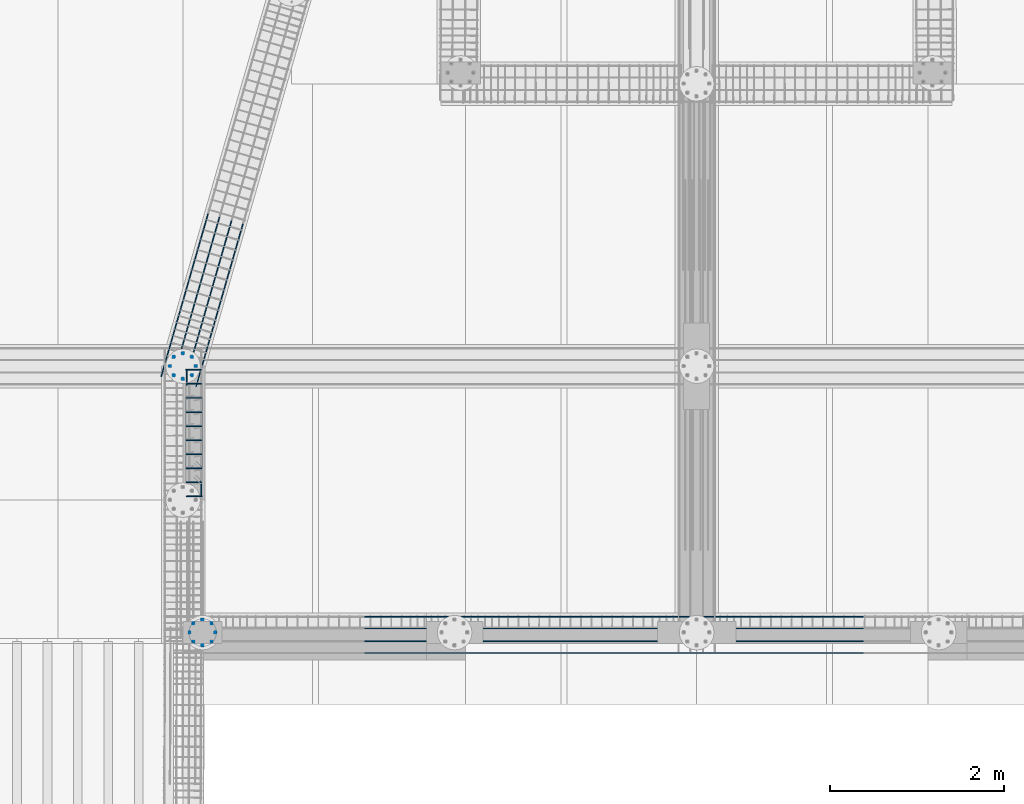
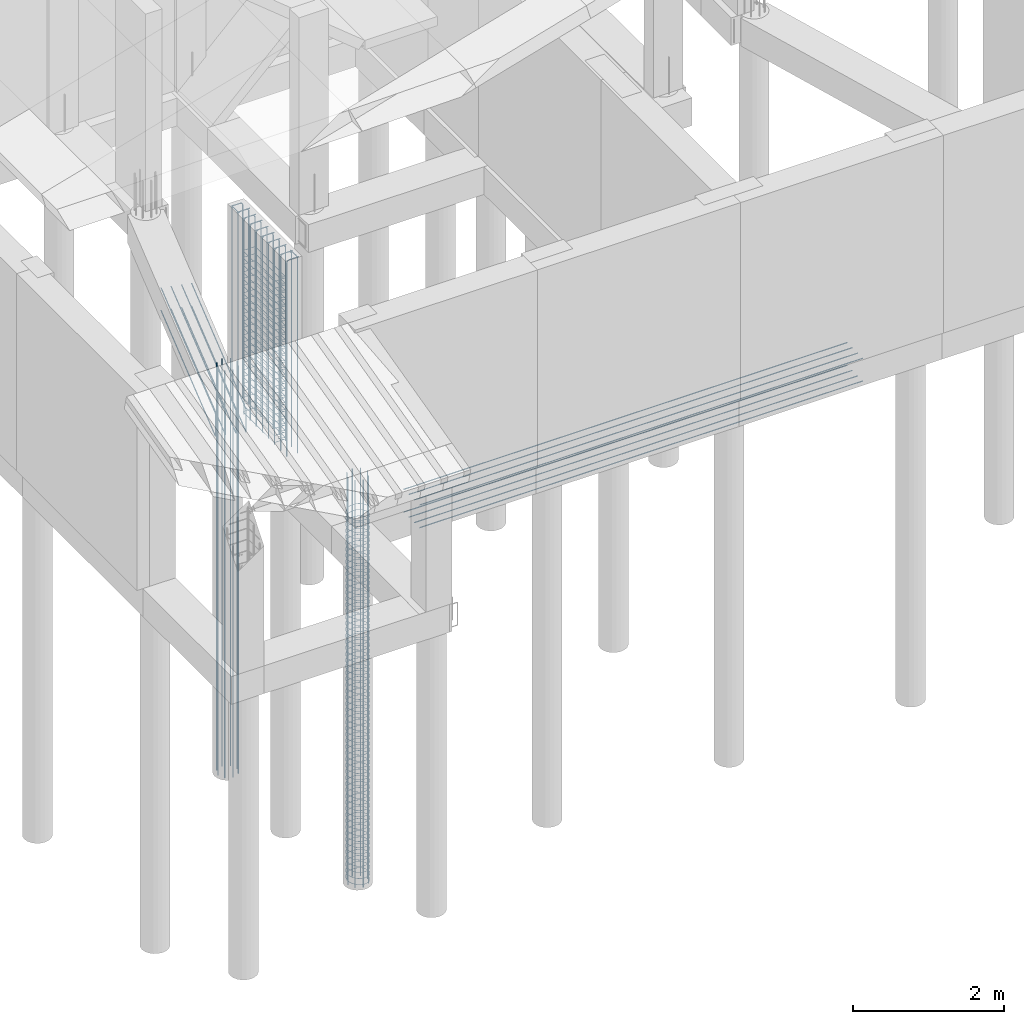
# One storey, part 3 of 13: 8 reinforcing bars.
"""IFC4 building model written with IfcOpenShell, lengths in metres."""

import ifcopenshell
import ifcopenshell.guid

model = None  # the IFC model being written
_history = None  # IfcOwnerHistory: only IFC2X3 demands one
_inside = {}  # id of a spatial element -> (the spatial element, [elements in it])
_under = {}  # id of a project, library or spatial element -> (it, [spatial elements below it])
_declared = {}  # id of a project -> (the project, [libraries it declares])
_typed = {}  # id of a type object -> (the type object, [elements of that type])
_made_of = {}  # id of a material, layer set ... -> (it, [elements and type objects made of it])


def new_model(schema):
    """Start an empty IFC model of exactly this schema.

    Asked for "IFC4X3", IfcOpenShell would pick the latest addendum, in which some entities
    have other attributes; the version numbers below select the first issue.
    IFC2X3 requires an IfcOwnerHistory on every rooted entity: one is made here for all.
    """
    global model, _history
    if schema == "IFC4X3":
        model = ifcopenshell.file(schema_version=(4, 3, 0, 0))
    else:
        model = ifcopenshell.file(schema=schema)
    _inside.clear()
    _under.clear()
    _declared.clear()
    _typed.clear()
    _made_of.clear()
    _history = None
    if model.schema == "IFC2X3":
        org = make("IfcOrganization", Name="unknown")
        user = make(
            "IfcPersonAndOrganization",
            ThePerson=make("IfcPerson", FamilyName="unknown"),
            TheOrganization=org,
        )
        app = make(
            "IfcApplication",
            ApplicationDeveloper=org,
            Version="unknown",
            ApplicationFullName="unknown",
            ApplicationIdentifier="unknown",
        )
        _history = make(
            "IfcOwnerHistory",
            OwningUser=user,
            OwningApplication=app,
            ChangeAction="ADDED",
            CreationDate=0,
        )
    return model


def make(cls, **values):
    """One entity of the class cls with the attributes given. An attribute that is None is left unset."""
    return model.create_entity(
        cls, **{name: value for name, value in values.items() if value is not None}
    )


def entity(cls, *values):
    """Any entity or typed value of the class cls, its attributes in the order of the schema. None: left unset."""
    e = model.create_entity(cls)
    for i, value in enumerate(values):
        if value is not None:
            e[i] = value
    return e


def rooted(cls, **values):
    """An entity with a GlobalId (a new one), such as an element, a storey or a relation."""
    return make(cls, GlobalId=ifcopenshell.guid.new(), OwnerHistory=_history, **values)


def si_unit(unit_type, name, prefix=None):
    """IfcSIUnit, for example si_unit("LENGTHUNIT", "METRE", prefix="MILLI")."""
    return make("IfcSIUnit", UnitType=unit_type, Prefix=prefix, Name=name)


def assignment(units):
    """IfcUnitAssignment: the units of a project."""
    return None if units is None else make("IfcUnitAssignment", Units=units)


def point(xyz):
    """IfcCartesianPoint."""
    return None if xyz is None else make("IfcCartesianPoint", Coordinates=xyz)


def direction(xyz):
    """IfcDirection."""
    return None if xyz is None else make("IfcDirection", DirectionRatios=xyz)


def frame(location, z_axis=None, x_axis=None):
    """IfcAxis2Placement3D, a coordinate frame: its origin and axes. An axis left out is left unset."""
    return make(
        "IfcAxis2Placement3D",
        Location=point(location),
        Axis=direction(z_axis),
        RefDirection=direction(x_axis),
    )


def origin_with_axes():
    """The frame at (0, 0, 0) with the z axis (0, 0, 1) and the x axis (1, 0, 0) written out."""
    return frame((0.0, 0.0, 0.0), z_axis=(0.0, 0.0, 1.0), x_axis=(1.0, 0.0, 0.0))


def place(relative_to, where):
    """IfcLocalPlacement: puts the frame where relative to a parent placement (None: the world)."""
    return make(
        "IfcLocalPlacement", PlacementRelTo=relative_to, RelativePlacement=where
    )


def context(
    kind, dimensions, precision=None, world=None, true_north=None, identifier=None
):
    """IfcGeometricRepresentationContext, for example the 3D "Model" context."""
    return make(
        "IfcGeometricRepresentationContext",
        ContextIdentifier=identifier,
        ContextType=kind,
        CoordinateSpaceDimension=dimensions,
        Precision=precision,
        WorldCoordinateSystem=world,
        TrueNorth=true_north,
    )


def project(units=None, contexts=None):
    """IfcProject with its units and contexts."""
    return rooted(
        "IfcProject",
        Name="project",
        RepresentationContexts=contexts,
        UnitsInContext=assignment(units),
    )


def spatial(cls, under=None, at=None, **own):
    """A site, building, storey or space (cls), placed at a placement, below another one or the project."""
    s = rooted(cls, ObjectPlacement=at, **own)
    if under is not None:
        _under.setdefault(under.id(), (under, []))[1].append(s)
    return s


def shape(context_of_items, identifier, shape_type, items):
    """IfcShapeRepresentation: the items that make up one representation, for example the "Body"."""
    return make(
        "IfcShapeRepresentation",
        ContextOfItems=context_of_items,
        RepresentationIdentifier=identifier,
        RepresentationType=shape_type,
        Items=items,
    )


def source(mapping_origin, context_of_items, identifier, shape_type, items):
    """IfcRepresentationMap: a shape defined once, which mapped items show again and again."""
    return make(
        "IfcRepresentationMap",
        MappingOrigin=mapping_origin,
        MappedRepresentation=shape(context_of_items, identifier, shape_type, items),
    )


def transform(
    local_origin,
    x_axis=None,
    y_axis=None,
    z_axis=None,
    scale=None,
    scale2=None,
    scale3=None,
    uniform=True,
):
    """IfcCartesianTransformationOperator3D, or its non-uniform kind. x_axis, y_axis, z_axis: its Axis1, 2, 3."""
    if uniform:
        return make(
            "IfcCartesianTransformationOperator3D",
            Axis1=direction(x_axis),
            Axis2=direction(y_axis),
            LocalOrigin=point(local_origin),
            Scale=scale,
            Axis3=direction(z_axis),
        )
    return make(
        "IfcCartesianTransformationOperator3DnonUniform",
        Axis1=direction(x_axis),
        Axis2=direction(y_axis),
        LocalOrigin=point(local_origin),
        Scale=scale,
        Axis3=direction(z_axis),
        Scale2=scale2,
        Scale3=scale3,
    )


def mapped(mapping_source, mapping_target):
    """IfcMappedItem: shows the shape of a source again, moved by a transform."""
    return make(
        "IfcMappedItem", MappingSource=mapping_source, MappingTarget=mapping_target
    )


def made_of(thing, what):
    """Note that an element or type object is made of a material, layer set ...; save() writes the relation."""
    if what is not None:
        _made_of.setdefault(what.id(), (what, []))[1].append(thing)
    return thing


def element(
    cls,
    number,
    at=None,
    inside=None,
    cuts=None,
    type_object=None,
    material=None,
    context=None,
    identifier="Body",
    shape_type=None,
    held_by="IfcProductDefinitionShape",
    body=None,
    shapes=None,
    **own,
):
    """One element of the class cls, such as IfcWall. Its Tag is "e" and its number.

    at: its placement. inside: the storey or other place that contains it. cuts: it is an
    opening in that element (IfcRelVoidsElement). A single representation is given by context,
    identifier, shape_type and body (its items); several are given by shapes. held_by: the class
    of the entity that holds the representations. save() writes the other relations.
    """
    e = rooted(cls, Tag="e%d" % number, ObjectPlacement=at, **own)
    if body is not None:
        shapes = [shape(context, identifier, shape_type, body)]
    if shapes is not None:
        e.Representation = make(held_by, Representations=shapes)
    if inside is not None:
        _inside.setdefault(inside.id(), (inside, []))[1].append(e)
    if cuts is not None:
        rooted(
            "IfcRelVoidsElement", RelatingBuildingElement=cuts, RelatedOpeningElement=e
        )
    if type_object is not None:
        _typed.setdefault(type_object.id(), (type_object, []))[1].append(e)
    return made_of(e, material)


def aggregate(whole, parts):
    """IfcRelAggregates: a whole, such as a stair, and the parts it consists of."""
    return rooted("IfcRelAggregates", RelatingObject=whole, RelatedObjects=parts)


def save(model, path):
    """Write the relations noted so far, then the file.

    IfcRelAggregates (storeys below a building ...), IfcRelContainedInSpatialStructure (elements
    in a storey), IfcRelDefinesByType, IfcRelAssociatesMaterial and IfcRelDeclares: one each for
    every whole, place, type object, material and project.
    """
    for whole, parts in _under.values():
        aggregate(whole, parts)
    for where, things in _inside.values():
        rooted(
            "IfcRelContainedInSpatialStructure",
            RelatedElements=things,
            RelatingStructure=where,
        )
    for kind, things in _typed.values():
        rooted("IfcRelDefinesByType", RelatedObjects=things, RelatingType=kind)
    for what, things in _made_of.values():
        rooted("IfcRelAssociatesMaterial", RelatedObjects=things, RelatingMaterial=what)
    for by, libraries in _declared.values():
        rooted("IfcRelDeclares", RelatingContext=by, RelatedDefinitions=libraries)
    model.write(path)


model = new_model("IFC4")

# Units and contexts
model_context = context("Model", 3, precision=1e-05, world=origin_with_axes())
ifc_project = project(units=[si_unit("LENGTHUNIT", "METRE"), si_unit("AREAUNIT", "SQUARE_METRE"), si_unit("VOLUMEUNIT", "CUBIC_METRE"), si_unit("MASSUNIT", "GRAM", prefix="KILO"), si_unit("TIMEUNIT", "SECOND"), si_unit("PLANEANGLEUNIT", "RADIAN"), si_unit("SOLIDANGLEUNIT", "STERADIAN"), si_unit("THERMODYNAMICTEMPERATUREUNIT", "DEGREE_CELSIUS")], contexts=[model_context])

# Site, building, storey
placement_1 = place(None, origin_with_axes())
site = spatial("IfcSite", under=ifc_project, at=placement_1, Name="Italia", CompositionType="ELEMENT")
building = spatial("IfcBuilding", under=site, at=placement_1, Name="Villa", CompositionType="ELEMENT")
storey = spatial("IfcBuildingStorey", under=building, at=placement_1, Name="Storey 0", CompositionType="ELEMENT", Elevation=0.0)

# Reinforcing bars
shared_shape_1 = source(origin_with_axes(), model_context, "Body", "AdvancedSweptSolid", [
    entity("IfcSweptDiskSolid", entity("IfcIndexedPolyCurve", entity("IfcCartesianPointList3D", [[3.222, 4.042, 0.0], [3.222, 4.042, 3.135], [3.22504, 4.042, 3.15031], [3.23372, 4.042, 3.16328], [3.24669, 4.042, 3.17196], [3.262, 4.042, 3.175], [3.404, 4.042, 3.175]]), [entity("IfcLineIndex", [1, 2]), entity("IfcLineIndex", [2, 3]), entity("IfcLineIndex", [3, 4]), entity("IfcLineIndex", [4, 5]), entity("IfcLineIndex", [5, 6]), entity("IfcLineIndex", [6, 7])], False), 0.008),
])
placement_2 = place(placement_1, origin_with_axes())
reinforcing_bar_1_placement = place(placement_2, origin_with_axes())
element("IfcReinforcingBar", 1, at=reinforcing_bar_1_placement, inside=storey, BarLength=3.33943, CrossSectionArea=0.00020106, NominalDiameter=0.016, context=model_context, shape_type="MappedRepresentation", body=[
    mapped(shared_shape_1, transform((0.0, 0.485333, 0.0), x_axis=(1.0, 0.0, 0.0), y_axis=(0.0, 1.0, 0.0), z_axis=(0.0, 0.0, 1.0), scale=1.0)),
    mapped(shared_shape_1, transform((0.0, 0.323555, 0.0), x_axis=(1.0, 0.0, 0.0), y_axis=(0.0, 1.0, 0.0), z_axis=(0.0, 0.0, 1.0), scale=1.0)),
    mapped(shared_shape_1, transform((0.0, 0.808889, 0.0), x_axis=(1.0, 0.0, 0.0), y_axis=(0.0, 1.0, 0.0), z_axis=(0.0, 0.0, 1.0), scale=1.0)),
    mapped(shared_shape_1, transform((0.0, 0.647111, 0.0), x_axis=(1.0, 0.0, 0.0), y_axis=(0.0, 1.0, 0.0), z_axis=(0.0, 0.0, 1.0), scale=1.0)),
    mapped(shared_shape_1, transform((0.0, 0.0, 0.0), x_axis=(1.0, 0.0, 0.0), y_axis=(0.0, 1.0, 0.0), z_axis=(0.0, 0.0, 1.0), scale=1.0)),
    mapped(shared_shape_1, transform((0.0, 0.970667, 0.0), x_axis=(1.0, 0.0, 0.0), y_axis=(0.0, 1.0, 0.0), z_axis=(0.0, 0.0, 1.0), scale=1.0)),
    mapped(shared_shape_1, transform((6.61, 9.54, 0.0), x_axis=(-1.0, 0.0, 0.0), y_axis=(0.0, -1.0, 0.0), z_axis=(0.0, 0.0, 1.0), scale=1.0)),
    mapped(shared_shape_1, transform((-0.82, 8.72, 0.0), x_axis=(0.0, -1.0, 0.0), y_axis=(1.0, 0.0, 0.0), z_axis=(0.0, 0.0, 1.0), scale=1.0)),
    mapped(shared_shape_1, transform((0.0, 0.161778, 0.0), x_axis=(1.0, 0.0, 0.0), y_axis=(0.0, 1.0, 0.0), z_axis=(0.0, 0.0, 1.0), scale=1.0)),
    mapped(shared_shape_1, transform((7.43, 0.82, 0.0), x_axis=(0.0, 1.0, 0.0), y_axis=(-1.0, 0.0, 0.0), z_axis=(0.0, 0.0, 1.0), scale=1.0)),
    mapped(shared_shape_1, transform((6.61, 8.73111, 0.0), x_axis=(-1.0, 0.0, 0.0), y_axis=(0.0, -1.0, 0.0), z_axis=(0.0, 0.0, 1.0), scale=1.0)),
    mapped(shared_shape_1, transform((6.61, 8.89289, 0.0), x_axis=(-1.0, 0.0, 0.0), y_axis=(0.0, -1.0, 0.0), z_axis=(0.0, 0.0, 1.0), scale=1.0)),
    mapped(shared_shape_1, transform((6.61, 8.40756, 0.0), x_axis=(-1.0, 0.0, 0.0), y_axis=(0.0, -1.0, 0.0), z_axis=(0.0, 0.0, 1.0), scale=1.0)),
    mapped(shared_shape_1, transform((6.61, 8.56933, 0.0), x_axis=(-1.0, 0.0, 0.0), y_axis=(0.0, -1.0, 0.0), z_axis=(0.0, 0.0, 1.0), scale=1.0)),
    mapped(shared_shape_1, transform((0.0, 1.13244, 0.0), x_axis=(1.0, 0.0, 0.0), y_axis=(0.0, 1.0, 0.0), z_axis=(0.0, 0.0, 1.0), scale=1.0)),
    mapped(shared_shape_1, transform((6.61, 8.24578, 0.0), x_axis=(-1.0, 0.0, 0.0), y_axis=(0.0, -1.0, 0.0), z_axis=(0.0, 0.0, 1.0), scale=1.0)),
    mapped(shared_shape_1, transform((6.61, 9.37822, 0.0), x_axis=(-1.0, 0.0, 0.0), y_axis=(0.0, -1.0, 0.0), z_axis=(0.0, 0.0, 1.0), scale=1.0)),
    mapped(shared_shape_1, transform((0.0, 1.29422, 0.0), x_axis=(1.0, 0.0, 0.0), y_axis=(0.0, 1.0, 0.0), z_axis=(0.0, 0.0, 1.0), scale=1.0)),
    mapped(shared_shape_1, transform((6.61, 9.05467, 0.0), x_axis=(-1.0, 0.0, 0.0), y_axis=(0.0, -1.0, 0.0), z_axis=(0.0, 0.0, 1.0), scale=1.0)),
    mapped(shared_shape_1, transform((6.61, 9.21644, 0.0), x_axis=(-1.0, 0.0, 0.0), y_axis=(0.0, -1.0, 0.0), z_axis=(0.0, 0.0, 1.0), scale=1.0)),
])
shared_shape_2 = source(origin_with_axes(), model_context, "Body", "AdvancedSweptSolid", [
    entity("IfcSweptDiskSolid", entity("IfcIndexedPolyCurve", entity("IfcCartesianPointList3D", [[3.32929, 4.44527, 0.041], [3.39707, 4.37748, 0.0406273], [3.4, 4.37041, 0.0405975], [3.4, 4.36356, 0.0405709], [3.39924, 4.35973, 0.0405557], [3.39707, 4.35648, 0.0405405], [3.39383, 4.35432, 0.0405254], [3.39, 4.35356, 0.0405102], [3.22, 4.35356, 0.0398492], [3.21617, 4.35432, 0.039834], [3.21293, 4.35648, 0.0398189], [3.21076, 4.35973, 0.0398037], [3.21, 4.36356, 0.0397885], [3.21, 5.17644, 0.0366279], [3.21076, 5.18027, 0.0366127], [3.21293, 5.18352, 0.0365975], [3.21617, 5.18568, 0.0365824], [3.22, 5.18644, 0.0365672], [3.39, 5.18644, 0.0359062], [3.39383, 5.18568, 0.035891], [3.39707, 5.18352, 0.0358759], [3.39924, 5.18027, 0.0358607], [3.4, 5.17644, 0.0358455], [3.4, 4.36356, 0.0326849], [3.39924, 4.35973, 0.0326697], [3.39707, 4.35648, 0.0326545], [3.39383, 4.35432, 0.0326394], [3.39, 4.35356, 0.0326242], [3.38314, 4.35356, 0.0325975], [3.37607, 4.35648, 0.0325678], [3.30829, 4.42427, 0.0321951]]), [entity("IfcLineIndex", [1, 2]), entity("IfcLineIndex", [2, 3]), entity("IfcLineIndex", [3, 4]), entity("IfcLineIndex", [4, 5]), entity("IfcLineIndex", [5, 6]), entity("IfcLineIndex", [6, 7]), entity("IfcLineIndex", [7, 8]), entity("IfcLineIndex", [8, 9]), entity("IfcLineIndex", [9, 10]), entity("IfcLineIndex", [10, 11]), entity("IfcLineIndex", [11, 12]), entity("IfcLineIndex", [12, 13]), entity("IfcLineIndex", [13, 14]), entity("IfcLineIndex", [14, 15]), entity("IfcLineIndex", [15, 16]), entity("IfcLineIndex", [16, 17]), entity("IfcLineIndex", [17, 18]), entity("IfcLineIndex", [18, 19]), entity("IfcLineIndex", [19, 20]), entity("IfcLineIndex", [20, 21]), entity("IfcLineIndex", [21, 22]), entity("IfcLineIndex", [22, 23]), entity("IfcLineIndex", [23, 24]), entity("IfcLineIndex", [24, 25]), entity("IfcLineIndex", [25, 26]), entity("IfcLineIndex", [26, 27]), entity("IfcLineIndex", [27, 28]), entity("IfcLineIndex", [28, 29]), entity("IfcLineIndex", [29, 30]), entity("IfcLineIndex", [30, 31])], False), 0.004),
])
reinforcing_bar_2_placement = place(placement_2, origin_with_axes())
element("IfcReinforcingBar", 2, at=reinforcing_bar_2_placement, inside=storey, BarLength=2.26457, CrossSectionArea=5.0265e-05, NominalDiameter=0.008, context=model_context, shape_type="MappedRepresentation", body=[
    mapped(shared_shape_2, transform((0.0, 0.0, 2.49691), x_axis=(1.0, 0.0, -5.10825e-05), y_axis=(0.0, 1.0, -4.85529e-05), z_axis=(5.10825e-05, 4.85529e-05, 1.0), scale=1.0)),
    mapped(shared_shape_2, transform((0.0, 0.0, 2.38343), x_axis=(1.0, 0.0, -5.10825e-05), y_axis=(0.0, 1.0, -4.85529e-05), z_axis=(5.10825e-05, 4.85529e-05, 1.0), scale=1.0)),
    mapped(shared_shape_2, transform((0.0, 0.0, 0.113477), x_axis=(1.0, 0.0, 0.0), y_axis=(0.0, 1.0, 0.0), z_axis=(0.0, 0.0, 1.0), scale=1.0)),
    mapped(shared_shape_2, transform((0.0, 0.0, 0.0), x_axis=(1.0, 0.0, 0.0), y_axis=(0.0, 1.0, 0.0), z_axis=(0.0, 0.0, 1.0), scale=1.0)),
    mapped(shared_shape_2, transform((0.0, 0.0, 0.907861), x_axis=(1.0, 0.0, 0.0), y_axis=(0.0, 1.0, 0.0), z_axis=(0.0, 0.0, 1.0), scale=1.0)),
    mapped(shared_shape_2, transform((0.0, 0.0, 2.61039), x_axis=(1.0, 0.0, -5.10825e-05), y_axis=(0.0, 1.0, -4.85529e-05), z_axis=(5.10825e-05, 4.85529e-05, 1.0), scale=1.0)),
    mapped(shared_shape_2, transform((0.0, 0.0, 0.226928), x_axis=(1.0, 0.0, 0.0), y_axis=(0.0, 1.0, 0.0), z_axis=(0.0, 0.0, 1.0), scale=1.0)),
    mapped(shared_shape_2, transform((0.0, 0.0, 0.453884), x_axis=(1.0, 0.0, 0.0), y_axis=(0.0, 1.0, 0.0), z_axis=(0.0, 0.0, 1.0), scale=1.0)),
    mapped(shared_shape_2, transform((0.0, 0.0, 0.332406), x_axis=(1.0, 0.0, 0.0), y_axis=(0.0, 1.0, 0.0), z_axis=(0.0, 0.0, 1.0), scale=1.0)),
    mapped(shared_shape_2, transform((0.0, 0.0, 0.794263), x_axis=(1.0, 0.0, 1.09784e-05), y_axis=(0.0, 1.0, 1.08701e-05), z_axis=(-1.09784e-05, -1.08701e-05, 1.0), scale=1.0)),
    mapped(shared_shape_2, transform((0.0, 0.0, 0.672785), x_axis=(1.0, 0.0, 1.09784e-05), y_axis=(0.0, 1.0, 1.08701e-05), z_axis=(-1.09784e-05, -1.08701e-05, 1.0), scale=1.0)),
    mapped(shared_shape_2, transform((0.0, 0.0, 0.567426), x_axis=(1.0, 0.0, 0.0), y_axis=(0.0, 1.0, 0.0), z_axis=(0.0, 0.0, 1.0), scale=1.0)),
    mapped(shared_shape_2, transform((0.0, 0.0, 1.24017), x_axis=(1.0, 0.0, 1.24783e-05), y_axis=(0.0, 1.0, 1.14904e-05), z_axis=(-1.24783e-05, -1.14904e-05, 1.0), scale=1.0)),
    mapped(shared_shape_2, transform((0.0, 0.0, 1.5886), x_axis=(1.0, 0.0, 1.24783e-05), y_axis=(0.0, 1.0, 1.14904e-05), z_axis=(-1.24783e-05, -1.14904e-05, 1.0), scale=1.0)),
    mapped(shared_shape_2, transform((0.0, 0.0, 1.92104), x_axis=(1.0, 0.0, 1.24783e-05), y_axis=(0.0, 1.0, 1.14904e-05), z_axis=(-1.24783e-05, -1.14904e-05, 1.0), scale=1.0)),
    mapped(shared_shape_2, transform((0.0, 0.0, 1.12669), x_axis=(1.0, 0.0, 1.24783e-05), y_axis=(0.0, 1.0, 1.14904e-05), z_axis=(-1.24783e-05, -1.14904e-05, 1.0), scale=1.0)),
    mapped(shared_shape_2, transform((0.0, 0.0, 1.02121), x_axis=(1.0, 0.0, 1.24783e-05), y_axis=(0.0, 1.0, 1.14904e-05), z_axis=(-1.24783e-05, -1.14904e-05, 1.0), scale=1.0)),
    mapped(shared_shape_2, transform((0.0, 0.0, 1.46712), x_axis=(1.0, 0.0, 1.24783e-05), y_axis=(0.0, 1.0, 1.14904e-05), z_axis=(-1.24783e-05, -1.14904e-05, 1.0), scale=1.0)),
    mapped(shared_shape_2, transform((0.0, 0.0, 1.36165), x_axis=(1.0, 0.0, 1.24783e-05), y_axis=(0.0, 1.0, 1.14904e-05), z_axis=(-1.24783e-05, -1.14904e-05, 1.0), scale=1.0)),
    mapped(shared_shape_2, transform((0.0, 0.0, 1.81556), x_axis=(1.0, 0.0, 1.24783e-05), y_axis=(0.0, 1.0, 1.14904e-05), z_axis=(-1.24783e-05, -1.14904e-05, 1.0), scale=1.0)),
    mapped(shared_shape_2, transform((0.0, 0.0, 1.70208), x_axis=(1.0, 0.0, 1.24783e-05), y_axis=(0.0, 1.0, 1.14904e-05), z_axis=(-1.24783e-05, -1.14904e-05, 1.0), scale=1.0)),
    mapped(shared_shape_2, transform((0.0, 0.0, 2.15647), x_axis=(1.0, 0.0, -5.10825e-05), y_axis=(0.0, 1.0, -4.85529e-05), z_axis=(5.10825e-05, 4.85529e-05, 1.0), scale=1.0)),
    mapped(shared_shape_2, transform((0.0, 0.0, 2.04299), x_axis=(1.0, 0.0, -5.10825e-05), y_axis=(0.0, 1.0, -4.85529e-05), z_axis=(5.10825e-05, 4.85529e-05, 1.0), scale=1.0)),
    mapped(shared_shape_2, transform((0.0, 0.0, 2.26147), x_axis=(1.0, 0.0, 1.24783e-05), y_axis=(0.0, 1.0, 1.14904e-05), z_axis=(-1.24783e-05, -1.14904e-05, 1.0), scale=1.0)),
])
shared_shape_3 = source(origin_with_axes(), model_context, "Body", "AdvancedSweptSolid", [
    entity("IfcSweptDiskSolid", entity("IfcIndexedPolyCurve", entity("IfcCartesianPointList3D", [[3.50965, 2.37035, -6.0], [3.50965, 2.37035, 0.6]]), [entity("IfcLineIndex", [1, 2])], False), 0.008),
])
reinforcing_bar_3_placement = place(placement_2, origin_with_axes())
element("IfcReinforcingBar", 3, at=reinforcing_bar_3_placement, inside=storey, BarLength=6.6, CrossSectionArea=0.00020106, NominalDiameter=0.016, context=model_context, shape_type="MappedRepresentation", body=[
    mapped(shared_shape_3, transform((-0.252652, 0.104652, 0.0), x_axis=(1.0, 0.0, 0.0), y_axis=(0.0, 1.0, 0.0), z_axis=(0.0, 0.0, 1.0), scale=1.0)),
    mapped(shared_shape_3, transform((-0.209304, 0.209303, 0.0), x_axis=(1.0, 0.0, 0.0), y_axis=(0.0, 1.0, 0.0), z_axis=(0.0, 0.0, 1.0), scale=1.0)),
    mapped(shared_shape_3, transform((-0.104652, -0.0433483, 0.0), x_axis=(1.0, 0.0, 0.0), y_axis=(0.0, 1.0, 0.0), z_axis=(0.0, 0.0, 1.0), scale=1.0)),
    mapped(shared_shape_3, transform((-0.209304, 0.0, 0.0), x_axis=(1.0, 0.0, 0.0), y_axis=(0.0, 1.0, 0.0), z_axis=(0.0, 0.0, 1.0), scale=1.0)),
    mapped(shared_shape_3, transform((0.0433481, 0.104652, 0.0), x_axis=(1.0, 0.0, 0.0), y_axis=(0.0, 1.0, 0.0), z_axis=(0.0, 0.0, 1.0), scale=1.0)),
    mapped(shared_shape_3, transform((0.0, 0.0, 0.0), x_axis=(1.0, 0.0, 0.0), y_axis=(0.0, 1.0, 0.0), z_axis=(0.0, 0.0, 1.0), scale=1.0)),
    mapped(shared_shape_3, transform((-0.104652, 0.252652, 0.0), x_axis=(1.0, 0.0, 0.0), y_axis=(0.0, 1.0, 0.0), z_axis=(0.0, 0.0, 1.0), scale=1.0)),
    mapped(shared_shape_3, transform((0.0, 0.209304, 0.0), x_axis=(1.0, 0.0, 0.0), y_axis=(0.0, 1.0, 0.0), z_axis=(0.0, 0.0, 1.0), scale=1.0)),
])
shared_shape_4 = source(origin_with_axes(), model_context, "Body", "AdvancedSweptSolid", [
    entity("IfcSweptDiskSolid", entity("IfcIndexedPolyCurve", entity("IfcCartesianPointList3D", [[3.565, 2.475, -5.97], [3.55717, 2.42556, -5.965], [3.53444, 2.38095, -5.96], [3.49905, 2.34556, -5.955], [3.45444, 2.32283, -5.95], [3.405, 2.315, -5.945], [3.35556, 2.32283, -5.94], [3.31095, 2.34556, -5.935], [3.27556, 2.38095, -5.93], [3.25283, 2.42556, -5.925], [3.245, 2.475, -5.92], [3.25283, 2.52444, -5.915], [3.27556, 2.56905, -5.91], [3.31095, 2.60444, -5.905], [3.35556, 2.62717, -5.9], [3.405, 2.635, -5.895], [3.45444, 2.62717, -5.89], [3.49905, 2.60444, -5.885], [3.53444, 2.56905, -5.88], [3.55717, 2.52444, -5.875], [3.565, 2.475, -5.87]]), [entity("IfcLineIndex", [1, 2]), entity("IfcLineIndex", [2, 3]), entity("IfcLineIndex", [3, 4]), entity("IfcLineIndex", [4, 5]), entity("IfcLineIndex", [5, 6]), entity("IfcLineIndex", [6, 7]), entity("IfcLineIndex", [7, 8]), entity("IfcLineIndex", [8, 9]), entity("IfcLineIndex", [9, 10]), entity("IfcLineIndex", [10, 11]), entity("IfcLineIndex", [11, 12]), entity("IfcLineIndex", [12, 13]), entity("IfcLineIndex", [13, 14]), entity("IfcLineIndex", [14, 15]), entity("IfcLineIndex", [15, 16]), entity("IfcLineIndex", [16, 17]), entity("IfcLineIndex", [17, 18]), entity("IfcLineIndex", [18, 19]), entity("IfcLineIndex", [19, 20]), entity("IfcLineIndex", [20, 21])], False), 0.004),
])
reinforcing_bar_4_placement = place(placement_2, origin_with_axes())
element("IfcReinforcingBar", 4, at=reinforcing_bar_4_placement, inside=storey, BarLength=1.00616, CrossSectionArea=5.0265e-05, NominalDiameter=0.008, context=model_context, shape_type="MappedRepresentation", body=[
    mapped(shared_shape_4, transform((2.36034e-05, -1.64509e-05, 4.3), x_axis=(1.0, 0.0, 0.0), y_axis=(0.0, 1.0, 0.0), z_axis=(0.0, 0.0, 1.0), scale=1.0)),
    mapped(shared_shape_4, transform((2.36034e-05, -1.64509e-05, 4.2), x_axis=(1.0, 0.0, 0.0), y_axis=(0.0, 1.0, 0.0), z_axis=(0.0, 0.0, 1.0), scale=1.0)),
    mapped(shared_shape_4, transform((2.36034e-05, -1.64509e-05, 4.1), x_axis=(1.0, 0.0, 0.0), y_axis=(0.0, 1.0, 0.0), z_axis=(0.0, 0.0, 1.0), scale=1.0)),
    mapped(shared_shape_4, transform((0.0, 0.0, 3.9), x_axis=(1.0, 0.0, 0.0), y_axis=(0.0, 1.0, 0.0), z_axis=(0.0, 0.0, 1.0), scale=1.0)),
    mapped(shared_shape_4, transform((0.0, 0.0, 3.8), x_axis=(1.0, 0.0, 0.0), y_axis=(0.0, 1.0, 0.0), z_axis=(0.0, 0.0, 1.0), scale=1.0)),
    mapped(shared_shape_4, transform((2.36034e-05, -1.64509e-05, 4.4), x_axis=(1.0, 0.0, 0.0), y_axis=(0.0, 1.0, 0.0), z_axis=(0.0, 0.0, 1.0), scale=1.0)),
    mapped(shared_shape_4, transform((0.0, 0.0, 3.5), x_axis=(1.0, 0.0, 0.0), y_axis=(0.0, 1.0, 0.0), z_axis=(0.0, 0.0, 1.0), scale=1.0)),
    mapped(shared_shape_4, transform((0.0, 0.0, 3.4), x_axis=(1.0, 0.0, 0.0), y_axis=(0.0, 1.0, 0.0), z_axis=(0.0, 0.0, 1.0), scale=1.0)),
    mapped(shared_shape_4, transform((2.36034e-05, -1.64509e-05, 4.0), x_axis=(1.0, 0.0, 0.0), y_axis=(0.0, 1.0, 0.0), z_axis=(0.0, 0.0, 1.0), scale=1.0)),
    mapped(shared_shape_4, transform((0.0, 0.0, 3.1), x_axis=(1.0, 0.0, 0.0), y_axis=(0.0, 1.0, 0.0), z_axis=(0.0, 0.0, 1.0), scale=1.0)),
    mapped(shared_shape_4, transform((0.0, 0.0, 3.7), x_axis=(1.0, 0.0, 0.0), y_axis=(0.0, 1.0, 0.0), z_axis=(0.0, 0.0, 1.0), scale=1.0)),
    mapped(shared_shape_4, transform((0.0, 0.0, 3.6), x_axis=(1.0, 0.0, 0.0), y_axis=(0.0, 1.0, 0.0), z_axis=(0.0, 0.0, 1.0), scale=1.0)),
    mapped(shared_shape_4, transform((2.59876e-05, -1.66893e-05, 5.7), x_axis=(1.0, 0.0, 0.0), y_axis=(0.0, 1.0, 0.0), z_axis=(0.0, 0.0, 1.0), scale=1.0)),
    mapped(shared_shape_4, transform((0.0, 0.0, 3.3), x_axis=(1.0, 0.0, 0.0), y_axis=(0.0, 1.0, 0.0), z_axis=(0.0, 0.0, 1.0), scale=1.0)),
    mapped(shared_shape_4, transform((0.0, 0.0, 3.2), x_axis=(1.0, 0.0, 0.0), y_axis=(0.0, 1.0, 0.0), z_axis=(0.0, 0.0, 1.0), scale=1.0)),
    mapped(shared_shape_4, transform((0.0, 0.0, 3.0), x_axis=(1.0, 0.0, 0.0), y_axis=(0.0, 1.0, 0.0), z_axis=(0.0, 0.0, 1.0), scale=1.0)),
    mapped(shared_shape_4, transform((2.3365e-05, -1.54972e-05, 5.9), x_axis=(1.0, 0.0, 0.0), y_axis=(0.0, 1.0, 0.0), z_axis=(0.0, 0.0, 1.0), scale=1.0)),
    mapped(shared_shape_4, transform((2.47955e-05, -1.66893e-05, 5.8), x_axis=(1.0, 0.0, 0.0), y_axis=(0.0, 1.0, 0.0), z_axis=(0.0, 0.0, 1.0), scale=1.0)),
    mapped(shared_shape_4, transform((2.59876e-05, -1.66893e-05, 5.6), x_axis=(1.0, 0.0, 0.0), y_axis=(0.0, 1.0, 0.0), z_axis=(0.0, 0.0, 1.0), scale=1.0)),
    mapped(shared_shape_4, transform((2.59876e-05, -1.66893e-05, 5.5), x_axis=(1.0, 0.0, 0.0), y_axis=(0.0, 1.0, 0.0), z_axis=(0.0, 0.0, 1.0), scale=1.0)),
    mapped(shared_shape_4, transform((2.36034e-05, -1.64509e-05, 5.4), x_axis=(1.0, 0.0, 0.0), y_axis=(0.0, 1.0, 0.0), z_axis=(0.0, 0.0, 1.0), scale=1.0)),
    mapped(shared_shape_4, transform((2.36034e-05, -1.64509e-05, 5.2), x_axis=(1.0, 0.0, 0.0), y_axis=(0.0, 1.0, 0.0), z_axis=(0.0, 0.0, 1.0), scale=1.0)),
    mapped(shared_shape_4, transform((2.36034e-05, -1.64509e-05, 5.1), x_axis=(1.0, 0.0, 0.0), y_axis=(0.0, 1.0, 0.0), z_axis=(0.0, 0.0, 1.0), scale=1.0)),
    mapped(shared_shape_4, transform((2.36034e-05, -1.64509e-05, 5.0), x_axis=(1.0, 0.0, 0.0), y_axis=(0.0, 1.0, 0.0), z_axis=(0.0, 0.0, 1.0), scale=1.0)),
    mapped(shared_shape_4, transform((2.36034e-05, -1.64509e-05, 4.8), x_axis=(1.0, 0.0, 0.0), y_axis=(0.0, 1.0, 0.0), z_axis=(0.0, 0.0, 1.0), scale=1.0)),
    mapped(shared_shape_4, transform((2.36034e-05, -1.64509e-05, 4.7), x_axis=(1.0, 0.0, 0.0), y_axis=(0.0, 1.0, 0.0), z_axis=(0.0, 0.0, 1.0), scale=1.0)),
    mapped(shared_shape_4, transform((2.36034e-05, -1.64509e-05, 5.3), x_axis=(1.0, 0.0, 0.0), y_axis=(0.0, 1.0, 0.0), z_axis=(0.0, 0.0, 1.0), scale=1.0)),
    mapped(shared_shape_4, transform((0.0, 0.0, 1.4), x_axis=(1.0, 0.0, 0.0), y_axis=(0.0, 1.0, 0.0), z_axis=(0.0, 0.0, 1.0), scale=1.0)),
    mapped(shared_shape_4, transform((0.0, 0.0, 1.3), x_axis=(1.0, 0.0, 0.0), y_axis=(0.0, 1.0, 0.0), z_axis=(0.0, 0.0, 1.0), scale=1.0)),
    mapped(shared_shape_4, transform((2.36034e-05, -1.64509e-05, 4.9), x_axis=(1.0, 0.0, 0.0), y_axis=(0.0, 1.0, 0.0), z_axis=(0.0, 0.0, 1.0), scale=1.0)),
    mapped(shared_shape_4, transform((0.0, 0.0, 0.999999), x_axis=(1.0, 0.0, 0.0), y_axis=(0.0, 1.0, 0.0), z_axis=(0.0, 0.0, 1.0), scale=1.0)),
    mapped(shared_shape_4, transform((2.36034e-05, -1.64509e-05, 4.6), x_axis=(1.0, 0.0, 0.0), y_axis=(0.0, 1.0, 0.0), z_axis=(0.0, 0.0, 1.0), scale=1.0)),
    mapped(shared_shape_4, transform((2.36034e-05, -1.64509e-05, 4.5), x_axis=(1.0, 0.0, 0.0), y_axis=(0.0, 1.0, 0.0), z_axis=(0.0, 0.0, 1.0), scale=1.0)),
    mapped(shared_shape_4, transform((0.0, 0.0, 0.599999), x_axis=(1.0, 0.0, 0.0), y_axis=(0.0, 1.0, 0.0), z_axis=(0.0, 0.0, 1.0), scale=1.0)),
    mapped(shared_shape_4, transform((0.0, 0.0, 1.2), x_axis=(1.0, 0.0, 0.0), y_axis=(0.0, 1.0, 0.0), z_axis=(0.0, 0.0, 1.0), scale=1.0)),
    mapped(shared_shape_4, transform((0.0, 0.0, 1.1), x_axis=(1.0, 0.0, 0.0), y_axis=(0.0, 1.0, 0.0), z_axis=(0.0, 0.0, 1.0), scale=1.0)),
    mapped(shared_shape_4, transform((0.0, 0.0, 0.899999), x_axis=(1.0, 0.0, 0.0), y_axis=(0.0, 1.0, 0.0), z_axis=(0.0, 0.0, 1.0), scale=1.0)),
    mapped(shared_shape_4, transform((0.0, 0.0, 0.799999), x_axis=(1.0, 0.0, 0.0), y_axis=(0.0, 1.0, 0.0), z_axis=(0.0, 0.0, 1.0), scale=1.0)),
    mapped(shared_shape_4, transform((0.0, 0.0, 0.699999), x_axis=(1.0, 0.0, 0.0), y_axis=(0.0, 1.0, 0.0), z_axis=(0.0, 0.0, 1.0), scale=1.0)),
    mapped(shared_shape_4, transform((0.0, 0.0, 0.499999), x_axis=(1.0, 0.0, 0.0), y_axis=(0.0, 1.0, 0.0), z_axis=(0.0, 0.0, 1.0), scale=1.0)),
    mapped(shared_shape_4, transform((0.0, 0.0, 0.399999), x_axis=(1.0, 0.0, 0.0), y_axis=(0.0, 1.0, 0.0), z_axis=(0.0, 0.0, 1.0), scale=1.0)),
    mapped(shared_shape_4, transform((0.0, 0.0, 0.299999), x_axis=(1.0, 0.0, 0.0), y_axis=(0.0, 1.0, 0.0), z_axis=(0.0, 0.0, 1.0), scale=1.0)),
    mapped(shared_shape_4, transform((0.0, 0.0, 0.0999994), x_axis=(1.0, 0.0, 0.0), y_axis=(0.0, 1.0, 0.0), z_axis=(0.0, 0.0, 1.0), scale=1.0)),
    mapped(shared_shape_4, transform((0.0, 0.0, 0.0), x_axis=(1.0, 0.0, 0.0), y_axis=(0.0, 1.0, 0.0), z_axis=(0.0, 0.0, 1.0), scale=1.0)),
    mapped(shared_shape_4, transform((0.0, 0.0, 2.9), x_axis=(1.0, 0.0, 0.0), y_axis=(0.0, 1.0, 0.0), z_axis=(0.0, 0.0, 1.0), scale=1.0)),
    mapped(shared_shape_4, transform((0.0, 0.0, 2.7), x_axis=(1.0, 0.0, 0.0), y_axis=(0.0, 1.0, 0.0), z_axis=(0.0, 0.0, 1.0), scale=1.0)),
    mapped(shared_shape_4, transform((0.0, 0.0, 2.6), x_axis=(1.0, 0.0, 0.0), y_axis=(0.0, 1.0, 0.0), z_axis=(0.0, 0.0, 1.0), scale=1.0)),
    mapped(shared_shape_4, transform((0.0, 0.0, 0.199999), x_axis=(1.0, 0.0, 0.0), y_axis=(0.0, 1.0, 0.0), z_axis=(0.0, 0.0, 1.0), scale=1.0)),
    mapped(shared_shape_4, transform((0.0, 0.0, 2.3), x_axis=(1.0, 0.0, 0.0), y_axis=(0.0, 1.0, 0.0), z_axis=(0.0, 0.0, 1.0), scale=1.0)),
    mapped(shared_shape_4, transform((0.0, 0.0, 2.2), x_axis=(1.0, 0.0, 0.0), y_axis=(0.0, 1.0, 0.0), z_axis=(0.0, 0.0, 1.0), scale=1.0)),
    mapped(shared_shape_4, transform((0.0, 0.0, 2.8), x_axis=(1.0, 0.0, 0.0), y_axis=(0.0, 1.0, 0.0), z_axis=(0.0, 0.0, 1.0), scale=1.0)),
    mapped(shared_shape_4, transform((0.0, 0.0, 1.9), x_axis=(1.0, 0.0, 0.0), y_axis=(0.0, 1.0, 0.0), z_axis=(0.0, 0.0, 1.0), scale=1.0)),
    mapped(shared_shape_4, transform((0.0, 0.0, 2.5), x_axis=(1.0, 0.0, 0.0), y_axis=(0.0, 1.0, 0.0), z_axis=(0.0, 0.0, 1.0), scale=1.0)),
    mapped(shared_shape_4, transform((0.0, 0.0, 2.4), x_axis=(1.0, 0.0, 0.0), y_axis=(0.0, 1.0, 0.0), z_axis=(0.0, 0.0, 1.0), scale=1.0)),
    mapped(shared_shape_4, transform((0.0, 0.0, 1.5), x_axis=(1.0, 0.0, 0.0), y_axis=(0.0, 1.0, 0.0), z_axis=(0.0, 0.0, 1.0), scale=1.0)),
    mapped(shared_shape_4, transform((0.0, 0.0, 2.1), x_axis=(1.0, 0.0, 0.0), y_axis=(0.0, 1.0, 0.0), z_axis=(0.0, 0.0, 1.0), scale=1.0)),
    mapped(shared_shape_4, transform((0.0, 0.0, 2.0), x_axis=(1.0, 0.0, 0.0), y_axis=(0.0, 1.0, 0.0), z_axis=(0.0, 0.0, 1.0), scale=1.0)),
    mapped(shared_shape_4, transform((0.0, 0.0, 1.8), x_axis=(1.0, 0.0, 0.0), y_axis=(0.0, 1.0, 0.0), z_axis=(0.0, 0.0, 1.0), scale=1.0)),
    mapped(shared_shape_4, transform((0.0, 0.0, 1.7), x_axis=(1.0, 0.0, 0.0), y_axis=(0.0, 1.0, 0.0), z_axis=(0.0, 0.0, 1.0), scale=1.0)),
    mapped(shared_shape_4, transform((0.0, 0.0, 1.6), x_axis=(1.0, 0.0, 0.0), y_axis=(0.0, 1.0, 0.0), z_axis=(0.0, 0.0, 1.0), scale=1.0)),
])
shared_shape_5 = source(origin_with_axes(), model_context, "Body", "AdvancedSweptSolid", [
    entity("IfcSweptDiskSolid", entity("IfcIndexedPolyCurve", entity("IfcCartesianPointList3D", [[3.28465, 5.43535, -6.0], [3.28465, 5.43535, 0.6]]), [entity("IfcLineIndex", [1, 2])], False), 0.008),
])
reinforcing_bar_5_placement = place(placement_2, origin_with_axes())
element("IfcReinforcingBar", 5, at=reinforcing_bar_5_placement, inside=storey, BarLength=6.6, CrossSectionArea=0.00020106, NominalDiameter=0.016, context=model_context, shape_type="MappedRepresentation", body=[
    mapped(shared_shape_5, transform((-0.252652, 0.104652, 0.0), x_axis=(1.0, 0.0, 0.0), y_axis=(0.0, 1.0, 0.0), z_axis=(0.0, 0.0, 1.0), scale=1.0)),
    mapped(shared_shape_5, transform((-0.209303, 0.209304, 0.0), x_axis=(1.0, 0.0, 0.0), y_axis=(0.0, 1.0, 0.0), z_axis=(0.0, 0.0, 1.0), scale=1.0)),
    mapped(shared_shape_5, transform((-0.104652, -0.0433474, 0.0), x_axis=(1.0, 0.0, 0.0), y_axis=(0.0, 1.0, 0.0), z_axis=(0.0, 0.0, 1.0), scale=1.0)),
    mapped(shared_shape_5, transform((-0.209303, 0.0, 0.0), x_axis=(1.0, 0.0, 0.0), y_axis=(0.0, 1.0, 0.0), z_axis=(0.0, 0.0, 1.0), scale=1.0)),
    mapped(shared_shape_5, transform((0.0433483, 0.104652, 0.0), x_axis=(1.0, 0.0, 0.0), y_axis=(0.0, 1.0, 0.0), z_axis=(0.0, 0.0, 1.0), scale=1.0)),
    mapped(shared_shape_5, transform((0.0, 0.0, 0.0), x_axis=(1.0, 0.0, 0.0), y_axis=(0.0, 1.0, 0.0), z_axis=(0.0, 0.0, 1.0), scale=1.0)),
    mapped(shared_shape_5, transform((-0.104652, 0.252652, 0.0), x_axis=(1.0, 0.0, 0.0), y_axis=(0.0, 1.0, 0.0), z_axis=(0.0, 0.0, 1.0), scale=1.0)),
    mapped(shared_shape_5, transform((0.0, 0.209304, 0.0), x_axis=(1.0, 0.0, 0.0), y_axis=(0.0, 1.0, 0.0), z_axis=(0.0, 0.0, 1.0), scale=1.0)),
])
shared_shape_6 = source(origin_with_axes(), model_context, "Body", "AdvancedSweptSolid", [
    entity("IfcSweptDiskSolid", entity("IfcIndexedPolyCurve", entity("IfcCartesianPointList3D", [[4.21668, 2.241, -0.409], [4.7425, 2.241, -0.409], [7.6975, 2.241, -0.409], [8.22332, 2.241, -0.409]]), [entity("IfcLineIndex", [1, 2]), entity("IfcLineIndex", [2, 3]), entity("IfcLineIndex", [3, 4])], False), 0.008),
])
reinforcing_bar_6_placement = place(placement_2, origin_with_axes())
element("IfcReinforcingBar", 6, at=reinforcing_bar_6_placement, inside=storey, BarLength=4.00663, CrossSectionArea=0.00020106, NominalDiameter=0.016, context=model_context, shape_type="MappedRepresentation", body=[
    mapped(shared_shape_6, transform((0.0, 0.418, 0.368), x_axis=(1.0, 0.0, 0.0), y_axis=(0.0, 1.0, 0.0), z_axis=(0.0, 0.0, 1.0), scale=1.0)),
    mapped(shared_shape_6, transform((0.0, 0.0, 0.368), x_axis=(1.0, 0.0, 0.0), y_axis=(0.0, 1.0, 0.0), z_axis=(0.0, 0.0, 1.0), scale=1.0)),
    mapped(shared_shape_6, transform((0.0, 0.281333, 0.368), x_axis=(1.0, 0.0, 0.0), y_axis=(0.0, 1.0, 0.0), z_axis=(0.0, 0.0, 1.0), scale=1.0)),
    mapped(shared_shape_6, transform((0.0, 0.136667, 0.368), x_axis=(1.0, 0.0, 0.0), y_axis=(0.0, 1.0, 0.0), z_axis=(0.0, 0.0, 1.0), scale=1.0)),
    mapped(shared_shape_6, transform((0.0, 0.418, 0.0), x_axis=(1.0, 0.0, 0.0), y_axis=(0.0, 1.0, 0.0), z_axis=(0.0, 0.0, 1.0), scale=1.0)),
    mapped(shared_shape_6, transform((0.0, 0.0, 0.0), x_axis=(1.0, 0.0, 0.0), y_axis=(0.0, 1.0, 0.0), z_axis=(0.0, 0.0, 1.0), scale=1.0)),
    mapped(shared_shape_6, transform((0.0, 0.281333, 0.0), x_axis=(1.0, 0.0, 0.0), y_axis=(0.0, 1.0, 0.0), z_axis=(0.0, 0.0, 1.0), scale=1.0)),
    mapped(shared_shape_6, transform((0.0, 0.136667, 0.0), x_axis=(1.0, 0.0, 0.0), y_axis=(0.0, 1.0, 0.0), z_axis=(0.0, 0.0, 1.0), scale=1.0)),
])
shared_shape_7 = source(origin_with_axes(), model_context, "Body", "AdvancedSweptSolid", [
    entity("IfcSweptDiskSolid", entity("IfcIndexedPolyCurve", entity("IfcCartesianPointList3D", [[7.17168, 2.241, -0.409], [7.6975, 2.241, -0.409], [10.4825, 2.241, -0.409], [11.0083, 2.241, -0.409]]), [entity("IfcLineIndex", [1, 2]), entity("IfcLineIndex", [2, 3]), entity("IfcLineIndex", [3, 4])], False), 0.008),
])
reinforcing_bar_7_placement = place(placement_2, origin_with_axes())
element("IfcReinforcingBar", 7, at=reinforcing_bar_7_placement, inside=storey, BarLength=3.83663, CrossSectionArea=0.00020106, NominalDiameter=0.016, context=model_context, shape_type="MappedRepresentation", body=[
    mapped(shared_shape_7, transform((0.0, 0.418, 0.368), x_axis=(1.0, 0.0, 0.0), y_axis=(0.0, 1.0, 0.0), z_axis=(0.0, 0.0, 1.0), scale=1.0)),
    mapped(shared_shape_7, transform((0.0, 0.0, 0.368), x_axis=(1.0, 0.0, 0.0), y_axis=(0.0, 1.0, 0.0), z_axis=(0.0, 0.0, 1.0), scale=1.0)),
    mapped(shared_shape_7, transform((0.0, 0.281333, 0.368), x_axis=(1.0, 0.0, 0.0), y_axis=(0.0, 1.0, 0.0), z_axis=(0.0, 0.0, 1.0), scale=1.0)),
    mapped(shared_shape_7, transform((0.0, 0.136667, 0.368), x_axis=(1.0, 0.0, 0.0), y_axis=(0.0, 1.0, 0.0), z_axis=(0.0, 0.0, 1.0), scale=1.0)),
    mapped(shared_shape_7, transform((0.0, 0.418, 0.0), x_axis=(1.0, 0.0, 0.0), y_axis=(0.0, 1.0, 0.0), z_axis=(0.0, 0.0, 1.0), scale=1.0)),
    mapped(shared_shape_7, transform((0.0, 0.0, 0.0), x_axis=(1.0, 0.0, 0.0), y_axis=(0.0, 1.0, 0.0), z_axis=(0.0, 0.0, 1.0), scale=1.0)),
    mapped(shared_shape_7, transform((0.0, 0.281333, 0.0), x_axis=(1.0, 0.0, 0.0), y_axis=(0.0, 1.0, 0.0), z_axis=(0.0, 0.0, 1.0), scale=1.0)),
    mapped(shared_shape_7, transform((0.0, 0.136667, 0.0), x_axis=(1.0, 0.0, 0.0), y_axis=(0.0, 1.0, 0.0), z_axis=(0.0, 0.0, 1.0), scale=1.0)),
])
shared_shape_8 = source(origin_with_axes(), model_context, "Body", "AdvancedSweptSolid", [
    entity("IfcSweptDiskSolid", entity("IfcIndexedPolyCurve", entity("IfcCartesianPointList3D", [[3.33095, 5.30896, -0.159], [3.33095, 5.30896, -0.399], [3.33116, 5.30969, -0.402827], [3.33176, 5.31178, -0.406071], [3.33266, 5.31489, -0.408239], [3.33372, 5.31857, -0.409], [3.38084, 5.48216, -0.409], [4.01541, 7.6854, -0.409], [4.16094, 8.19068, -0.409]]), [entity("IfcLineIndex", [1, 2]), entity("IfcLineIndex", [2, 3]), entity("IfcLineIndex", [3, 4]), entity("IfcLineIndex", [4, 5]), entity("IfcLineIndex", [5, 6]), entity("IfcLineIndex", [6, 7]), entity("IfcLineIndex", [7, 8]), entity("IfcLineIndex", [8, 9])], False), 0.008),
])
reinforcing_bar_8_placement = place(placement_2, origin_with_axes())
element("IfcReinforcingBar", 8, at=reinforcing_bar_8_placement, inside=storey, BarLength=3.24447, CrossSectionArea=0.00020106, NominalDiameter=0.016, context=model_context, shape_type="MappedRepresentation", body=[
    mapped(shared_shape_8, transform((2.92603, -0.84275, -0.45), x_axis=(-0.8468, 0.531912, 0.0), y_axis=(0.531912, 0.8468, 0.0), z_axis=(0.0, 0.0, -1.0), scale=1.0)),
    mapped(shared_shape_8, transform((3.3277, -0.958439, -0.45), x_axis=(-0.8468, 0.531912, 0.0), y_axis=(0.531912, 0.8468, 0.0), z_axis=(0.0, 0.0, -1.0), scale=1.0)),
    mapped(shared_shape_8, transform((3.05736, -0.880574, -0.45), x_axis=(-0.8468, 0.531912, 0.0), y_axis=(0.531912, 0.8468, 0.0), z_axis=(0.0, 0.0, -1.0), scale=1.0)),
    mapped(shared_shape_8, transform((3.19637, -0.920613, -0.45), x_axis=(-0.8468, 0.531912, 0.0), y_axis=(0.531912, 0.8468, 0.0), z_axis=(0.0, 0.0, -1.0), scale=1.0)),
    mapped(shared_shape_8, transform((-0.401672, 0.115689, 0.0), x_axis=(1.0, 0.0, 0.0), y_axis=(0.0, 1.0, 0.0), z_axis=(0.0, 0.0, 1.0), scale=1.0)),
    mapped(shared_shape_8, transform((0.0, 0.0, 0.0), x_axis=(1.0, 0.0, 0.0), y_axis=(0.0, 1.0, 0.0), z_axis=(0.0, 0.0, 1.0), scale=1.0)),
    mapped(shared_shape_8, transform((-0.270344, 0.0778646, 0.0), x_axis=(1.0, 0.0, 0.0), y_axis=(0.0, 1.0, 0.0), z_axis=(0.0, 0.0, 1.0), scale=1.0)),
    mapped(shared_shape_8, transform((-0.131328, 0.0378256, 0.0), x_axis=(1.0, 0.0, 0.0), y_axis=(0.0, 1.0, 0.0), z_axis=(0.0, 0.0, 1.0), scale=1.0)),
])

save(model, "model.ifc")
